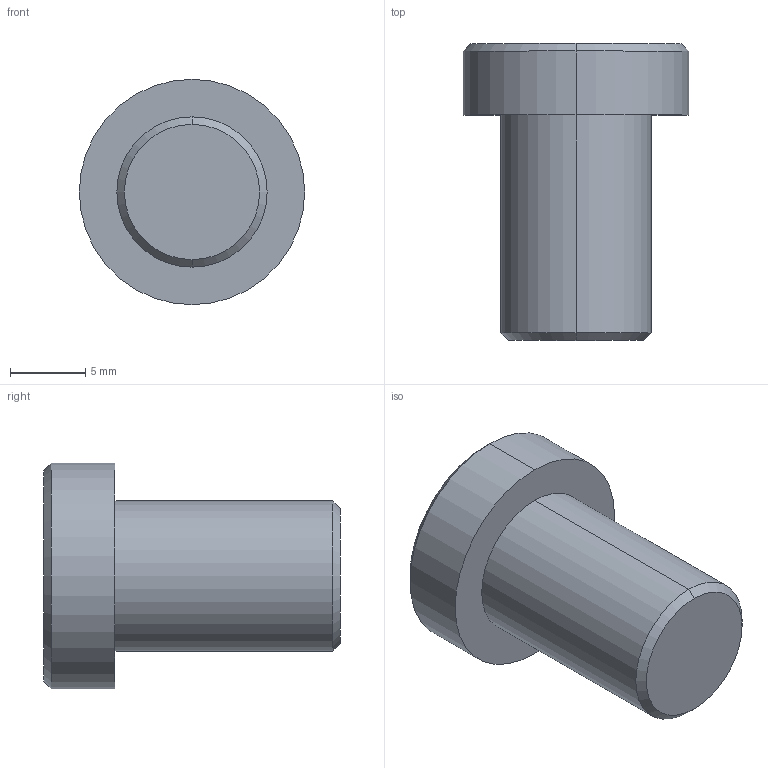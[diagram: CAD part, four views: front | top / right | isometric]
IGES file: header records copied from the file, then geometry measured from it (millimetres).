
Start section: 3D InterOp IGES (v. 2019 1.0.2), Spatial Corp. Copyright (c) 1999-2017.
Global section: file name: SS SDP15.igs; native system: Spatial Corp.; preprocessor: 3D InterOp GENERIC/IGES 3.0; author: Noname; organization: Noname; date: 20220628.112211; units: millimetre
Bounding box: 15 x 19.75 x 15 mm (x, y, z)
Surface area: 1024.9 mm2 (no closed solid volume)
Topology: 0 solids, 0 shells, 11 faces, 40 edges, 40 vertices
Faces by surface type: revolution 8, extrusion 3
